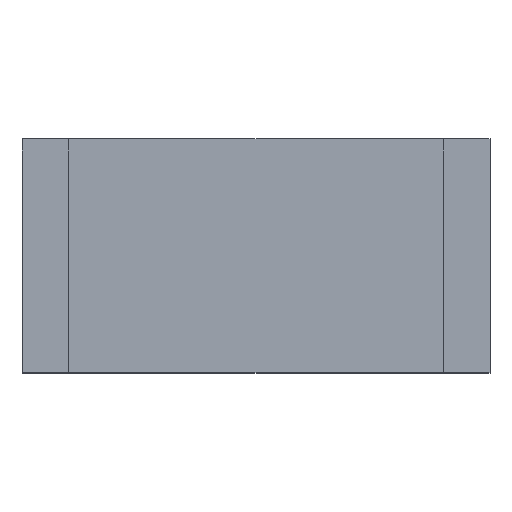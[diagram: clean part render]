
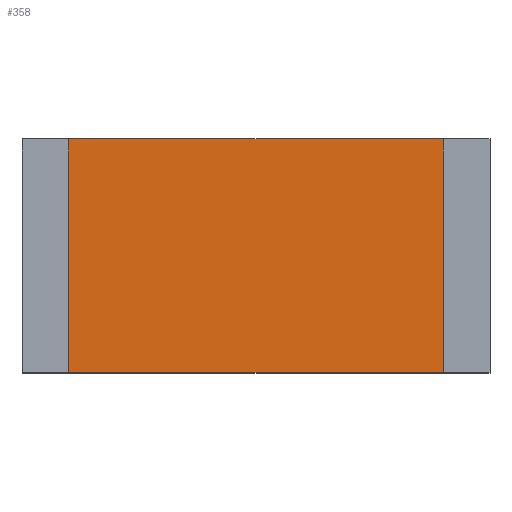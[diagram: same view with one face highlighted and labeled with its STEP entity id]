
A CAD part, top view. The second image highlights one B-rep face of the part: STEP entity #358.
In plain terms, the highlighted planar face has unit normal (0, 0, 1).
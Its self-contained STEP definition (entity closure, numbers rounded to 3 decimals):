
#358=ADVANCED_FACE('',(#586),#588,.T.);
#586=FACE_BOUND('',#587,.T.);
#587=EDGE_LOOP('',(#736,#737,#738,#739));
#588=PLANE('',#589);
#589=AXIS2_PLACEMENT_3D('',#590,#591,#592);
#590=CARTESIAN_POINT('',(0.,0.,0.59));
#591=DIRECTION('',(0.,0.,1.));
#592=DIRECTION('',(-1.,0.,0.));
#736=ORIENTED_EDGE('',*,*,#806,.T.);
#737=ORIENTED_EDGE('',*,*,#810,.T.);
#738=ORIENTED_EDGE('',*,*,#813,.T.);
#739=ORIENTED_EDGE('',*,*,#815,.T.);
#806=EDGE_CURVE('',#921,#919,#922,.T.);
#810=EDGE_CURVE('',#919,#926,#928,.T.);
#813=EDGE_CURVE('',#926,#931,#933,.T.);
#815=EDGE_CURVE('',#931,#921,#935,.T.);
#919=VERTEX_POINT('',#1161);
#921=VERTEX_POINT('',#1165);
#922=LINE('',#1166,#1167);
#926=VERTEX_POINT('',#1176);
#928=LINE('',#1180,#1181);
#931=VERTEX_POINT('',#1187);
#933=LINE('',#1191,#1192);
#935=LINE('',#1197,#1198);
#1161=CARTESIAN_POINT('',(-2.,-1.25,0.59));
#1165=CARTESIAN_POINT('',(-2.,1.25,0.59));
#1166=CARTESIAN_POINT('',(-2.,1.25,0.59));
#1167=VECTOR('',#1168,1.);
#1168=DIRECTION('',(0.,-1.,0.));
#1176=CARTESIAN_POINT('',(2.,-1.25,0.59));
#1180=CARTESIAN_POINT('',(-2.,-1.25,0.59));
#1181=VECTOR('',#1182,1.);
#1182=DIRECTION('',(1.,0.,0.));
#1187=CARTESIAN_POINT('',(2.,1.25,0.59));
#1191=CARTESIAN_POINT('',(2.,-1.25,0.59));
#1192=VECTOR('',#1193,1.);
#1193=DIRECTION('',(0.,1.,0.));
#1197=CARTESIAN_POINT('',(2.,1.25,0.59));
#1198=VECTOR('',#1199,1.);
#1199=DIRECTION('',(-1.,0.,0.));
